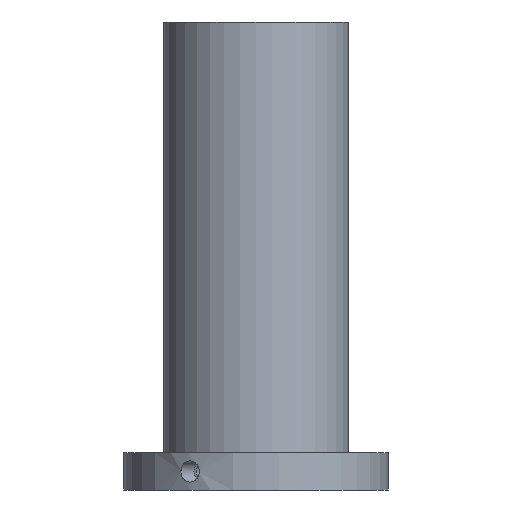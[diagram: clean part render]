
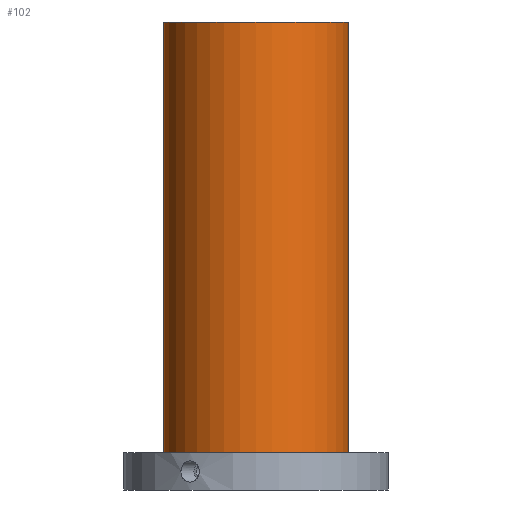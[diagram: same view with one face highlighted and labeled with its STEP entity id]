
A CAD part, front view. The second image highlights one B-rep face of the part: STEP entity #102.
In plain terms, the highlighted cylindrical face has radius 35 mm (diameter 70 mm), a full revolution.
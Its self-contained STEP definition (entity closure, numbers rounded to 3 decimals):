
#102=ADVANCED_FACE('',(#136,#137),#119,.T.);
#119=CYLINDRICAL_SURFACE('',#371,35.);
#136=FACE_BOUND('',#188,.T.);
#137=FACE_BOUND('',#189,.T.);
#188=EDGE_LOOP('',(#240));
#189=EDGE_LOOP('',(#241));
#240=ORIENTED_EDGE('',*,*,#318,.F.);
#241=ORIENTED_EDGE('',*,*,#319,.T.);
#292=VERTEX_POINT('',#557);
#293=VERTEX_POINT('',#559);
#318=EDGE_CURVE('',#292,#292,#343,.T.);
#319=EDGE_CURVE('',#293,#293,#344,.T.);
#343=CIRCLE('',#369,35.);
#344=CIRCLE('',#370,35.);
#369=AXIS2_PLACEMENT_3D('',#556,#415,#416);
#370=AXIS2_PLACEMENT_3D('',#558,#417,#418);
#371=AXIS2_PLACEMENT_3D('',#560,#419,#420);
#415=DIRECTION('',(0.,0.,-1.));
#416=DIRECTION('',(1.,0.,0.));
#417=DIRECTION('',(0.,0.,-1.));
#418=DIRECTION('',(1.,0.,0.));
#419=DIRECTION('',(0.,0.,-1.));
#420=DIRECTION('',(-1.,0.,0.));
#556=CARTESIAN_POINT('',(0.,0.,14.));
#557=CARTESIAN_POINT('',(35.,0.,14.));
#558=CARTESIAN_POINT('',(0.,0.,177.));
#559=CARTESIAN_POINT('',(35.,0.,177.));
#560=CARTESIAN_POINT('',(0.,0.,177.));
